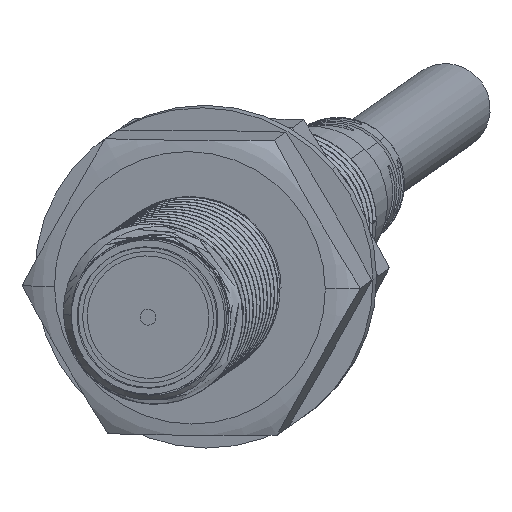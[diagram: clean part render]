
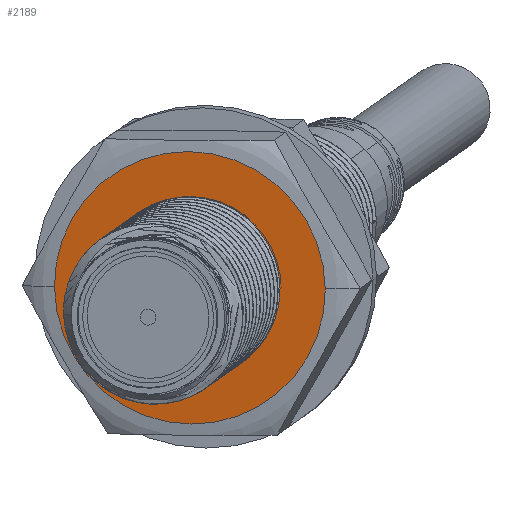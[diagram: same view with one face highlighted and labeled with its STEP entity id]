
A CAD part, top view. The second image highlights one B-rep face of the part: STEP entity #2189.
In plain terms, the highlighted planar face has unit normal (-0.154, -0.11, 0.982) as drawn and (0, 0, 1) by its records, which use the part's own axes.
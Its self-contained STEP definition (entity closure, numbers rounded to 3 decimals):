
#311 = CIRCLE ( 'NONE', #14941, 6.006 ) ;
#1015 = AXIS2_PLACEMENT_3D ( 'NONE', #1426, #17099, #11985 ) ;
#1195 = CARTESIAN_POINT ( 'NONE',  ( 0., 0., 4. ) ) ;
#1271 = EDGE_LOOP ( 'NONE', ( #12427, #3456 ) ) ;
#1426 = CARTESIAN_POINT ( 'NONE',  ( 0., 0., 4. ) ) ;
#1595 = FACE_OUTER_BOUND ( 'NONE', #1271, .T. ) ;
#1860 = CIRCLE ( 'NONE', #6281, 6.006 ) ;
#2189 = ADVANCED_FACE ( 'NONE', ( #10066, #1595 ), #9970, .T. ) ;
#3456 = ORIENTED_EDGE ( 'NONE', *, *, #16675, .T. ) ;
#3775 = ORIENTED_EDGE ( 'NONE', *, *, #14282, .F. ) ;
#4054 = EDGE_LOOP ( 'NONE', ( #3775, #11595 ) ) ;
#4423 = CARTESIAN_POINT ( 'NONE',  ( 0., 0., 4. ) ) ;
#4646 = VERTEX_POINT ( 'NONE', #6388 ) ;
#5140 = CIRCLE ( 'NONE', #12876, 4. ) ;
#5593 = VERTEX_POINT ( 'NONE', #12904 ) ;
#6281 = AXIS2_PLACEMENT_3D ( 'NONE', #1195, #6464, #11754 ) ;
#6388 = CARTESIAN_POINT ( 'NONE',  ( -6.006, 0., 4. ) ) ;
#6407 = EDGE_CURVE ( 'NONE', #12014, #4646, #311, .T. ) ;
#6464 = DIRECTION ( 'NONE',  ( 0., 0., 1. ) ) ;
#6897 = DIRECTION ( 'NONE',  ( 0., 0., 1. ) ) ;
#8769 = CIRCLE ( 'NONE', #1015, 4. ) ;
#8992 = CARTESIAN_POINT ( 'NONE',  ( 4., 0., 4. ) ) ;
#9709 = DIRECTION ( 'NONE',  ( 0., 0., 1. ) ) ;
#9823 = AXIS2_PLACEMENT_3D ( 'NONE', #16047, #14741, #10942 ) ;
#9970 = PLANE ( 'NONE',  #9823 ) ;
#10066 = FACE_BOUND ( 'NONE', #4054, .T. ) ;
#10112 = CARTESIAN_POINT ( 'NONE',  ( 6.006, 0., 4. ) ) ;
#10942 = DIRECTION ( 'NONE',  ( 1., 0., 0. ) ) ;
#11090 = VERTEX_POINT ( 'NONE', #8992 ) ;
#11595 = ORIENTED_EDGE ( 'NONE', *, *, #15815, .F. ) ;
#11754 = DIRECTION ( 'NONE',  ( 1., 0., 0. ) ) ;
#11985 = DIRECTION ( 'NONE',  ( 1., 0., 0. ) ) ;
#12014 = VERTEX_POINT ( 'NONE', #10112 ) ;
#12267 = CARTESIAN_POINT ( 'NONE',  ( 0., 0., 4. ) ) ;
#12427 = ORIENTED_EDGE ( 'NONE', *, *, #6407, .T. ) ;
#12876 = AXIS2_PLACEMENT_3D ( 'NONE', #12267, #6897, #13383 ) ;
#12904 = CARTESIAN_POINT ( 'NONE',  ( -4., 0., 4. ) ) ;
#13383 = DIRECTION ( 'NONE',  ( 1., 0., 0. ) ) ;
#14282 = EDGE_CURVE ( 'NONE', #5593, #11090, #5140, .T. ) ;
#14741 = DIRECTION ( 'NONE',  ( 0., 0., 1. ) ) ;
#14941 = AXIS2_PLACEMENT_3D ( 'NONE', #4423, #9709, #14976 ) ;
#14976 = DIRECTION ( 'NONE',  ( 1., 0., 0. ) ) ;
#15815 = EDGE_CURVE ( 'NONE', #11090, #5593, #8769, .T. ) ;
#16047 = CARTESIAN_POINT ( 'NONE',  ( 0., 0., 4. ) ) ;
#16675 = EDGE_CURVE ( 'NONE', #4646, #12014, #1860, .T. ) ;
#17099 = DIRECTION ( 'NONE',  ( 0., 0., 1. ) ) ;
